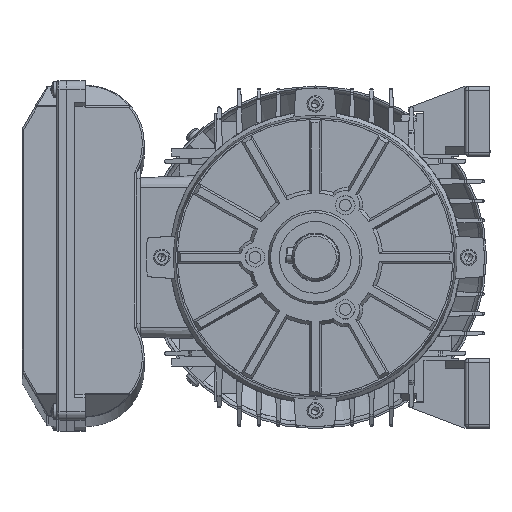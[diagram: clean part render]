
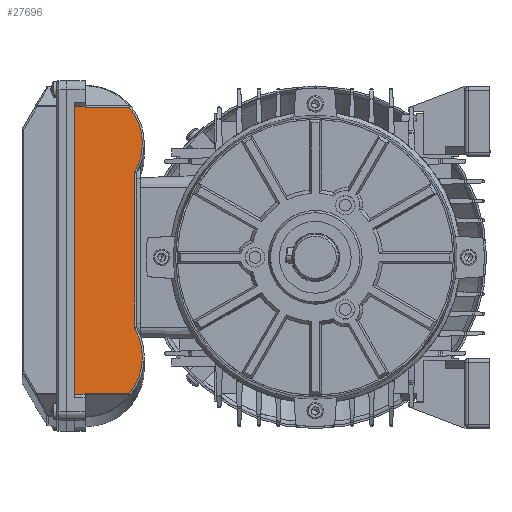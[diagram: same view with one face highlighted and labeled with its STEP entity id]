
A CAD part, left-side view. The second image highlights one B-rep face of the part: STEP entity #27696.
In plain terms, the highlighted planar face has unit normal (-0.999, 0, 0.043) as drawn and (0, 0, 1) by its records, which use the part's own axes.
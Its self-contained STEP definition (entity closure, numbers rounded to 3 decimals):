
#880 = ORIENTED_EDGE ( 'NONE', *, *, #39147, .T. ) ;
#1239 = EDGE_CURVE ( 'NONE', #28847, #29519, #54235, .T. ) ;
#2260 = VECTOR ( 'NONE', #73281, 1000. ) ;
#3214 = EDGE_CURVE ( 'NONE', #46140, #18748, #95264, .T. ) ;
#6513 = CARTESIAN_POINT ( 'NONE',  ( 162.296, -7.5, 140. ) ) ;
#8426 = EDGE_CURVE ( 'NONE', #11874, #73346, #112369, .T. ) ;
#8564 = CARTESIAN_POINT ( 'NONE',  ( 162.296, 6.263, 140. ) ) ;
#9766 = VECTOR ( 'NONE', #54832, 1000. ) ;
#11874 = VERTEX_POINT ( 'NONE', #18665 ) ;
#12584 = DIRECTION ( 'NONE',  ( 0., -1., 0. ) ) ;
#15116 = CARTESIAN_POINT ( 'NONE',  ( 33.5, 29., 140. ) ) ;
#15262 = DIRECTION ( 'NONE',  ( 0., 1., 0. ) ) ;
#17146 = ORIENTED_EDGE ( 'NONE', *, *, #8426, .T. ) ;
#18354 = DIRECTION ( 'NONE',  ( 1., 0., 0. ) ) ;
#18665 = CARTESIAN_POINT ( 'NONE',  ( 162.296, 29., 140. ) ) ;
#18738 = CARTESIAN_POINT ( 'NONE',  ( 128.4, 3.5, 140. ) ) ;
#18748 = VERTEX_POINT ( 'NONE', #89465 ) ;
#24871 = VECTOR ( 'NONE', #12584, 1000. ) ;
#26506 = CARTESIAN_POINT ( 'NONE',  ( 14.314, 29., 140. ) ) ;
#27112 = CIRCLE ( 'NONE', #94628, 29.5 ) ;
#27696 = ADVANCED_FACE ( 'NONE', ( #32480 ), #69103, .T. ) ;
#28847 = VERTEX_POINT ( 'NONE', #41783 ) ;
#29519 = VERTEX_POINT ( 'NONE', #43887 ) ;
#30053 = ORIENTED_EDGE ( 'NONE', *, *, #55461, .F. ) ;
#30786 = DIRECTION ( 'NONE',  ( 0., -1., 0. ) ) ;
#30860 = CARTESIAN_POINT ( 'NONE',  ( 3., -7.5, 140. ) ) ;
#32110 = LINE ( 'NONE', #74458, #2260 ) ;
#32430 = AXIS2_PLACEMENT_3D ( 'NONE', #30860, #103769, #68293 ) ;
#32480 = FACE_OUTER_BOUND ( 'NONE', #44904, .T. ) ;
#36422 = DIRECTION ( 'NONE',  ( 1., 0., 0. ) ) ;
#38517 = ORIENTED_EDGE ( 'NONE', *, *, #1239, .T. ) ;
#39147 = EDGE_CURVE ( 'NONE', #113042, #11874, #114586, .T. ) ;
#39180 = CARTESIAN_POINT ( 'NONE',  ( 14.704, -7.5, 140. ) ) ;
#41783 = CARTESIAN_POINT ( 'NONE',  ( 48.332, 3.5, 140. ) ) ;
#43887 = CARTESIAN_POINT ( 'NONE',  ( 128.668, 3.5, 140. ) ) ;
#44904 = EDGE_LOOP ( 'NONE', ( #101533, #880, #17146, #107104, #30053, #92149, #45995, #111773, #104470, #38517 ) ) ;
#45995 = ORIENTED_EDGE ( 'NONE', *, *, #105120, .T. ) ;
#46140 = VERTEX_POINT ( 'NONE', #61229 ) ;
#46893 = CARTESIAN_POINT ( 'NONE',  ( 162.686, 34.5, 140. ) ) ;
#49134 = LINE ( 'NONE', #49654, #24871 ) ;
#49554 = VERTEX_POINT ( 'NONE', #46893 ) ;
#49654 = CARTESIAN_POINT ( 'NONE',  ( 14.314, 34.5, 140. ) ) ;
#49686 = EDGE_CURVE ( 'NONE', #58027, #73670, #49134, .T. ) ;
#50714 = LINE ( 'NONE', #81072, #72028 ) ;
#54235 = LINE ( 'NONE', #18738, #92583 ) ;
#54832 = DIRECTION ( 'NONE',  ( 1., 0., 0. ) ) ;
#55461 = EDGE_CURVE ( 'NONE', #58027, #49554, #32110, .T. ) ;
#55585 = CARTESIAN_POINT ( 'NONE',  ( 162.686, 29., 140. ) ) ;
#58027 = VERTEX_POINT ( 'NONE', #92073 ) ;
#60132 = DIRECTION ( 'NONE',  ( 0., 0., 1. ) ) ;
#61229 = CARTESIAN_POINT ( 'NONE',  ( 14.704, 29., 140. ) ) ;
#68293 = DIRECTION ( 'NONE',  ( 1., 0., 0. ) ) ;
#69103 = PLANE ( 'NONE',  #32430 ) ;
#70997 = VECTOR ( 'NONE', #30786, 1000. ) ;
#72028 = VECTOR ( 'NONE', #99789, 1000. ) ;
#72644 = EDGE_CURVE ( 'NONE', #18748, #28847, #73624, .T. ) ;
#73236 = EDGE_CURVE ( 'NONE', #49554, #73346, #50714, .T. ) ;
#73281 = DIRECTION ( 'NONE',  ( 1., 0., 0. ) ) ;
#73346 = VERTEX_POINT ( 'NONE', #55585 ) ;
#73624 = CIRCLE ( 'NONE', #95114, 29.5 ) ;
#73670 = VERTEX_POINT ( 'NONE', #98495 ) ;
#74458 = CARTESIAN_POINT ( 'NONE',  ( 14.314, 34.5, 140. ) ) ;
#78044 = DIRECTION ( 'NONE',  ( 0., 0., 1. ) ) ;
#81072 = CARTESIAN_POINT ( 'NONE',  ( 162.686, 34.5, 140. ) ) ;
#87147 = CARTESIAN_POINT ( 'NONE',  ( 143.5, 29., 140. ) ) ;
#89465 = CARTESIAN_POINT ( 'NONE',  ( 14.704, 6.263, 140. ) ) ;
#92073 = CARTESIAN_POINT ( 'NONE',  ( 14.314, 34.5, 140. ) ) ;
#92149 = ORIENTED_EDGE ( 'NONE', *, *, #49686, .T. ) ;
#92583 = VECTOR ( 'NONE', #18354, 1000. ) ;
#94628 = AXIS2_PLACEMENT_3D ( 'NONE', #87147, #60132, #96363 ) ;
#95114 = AXIS2_PLACEMENT_3D ( 'NONE', #15116, #78044, #96758 ) ;
#95264 = LINE ( 'NONE', #39180, #70997 ) ;
#96363 = DIRECTION ( 'NONE',  ( 1., 0., 0. ) ) ;
#96758 = DIRECTION ( 'NONE',  ( 1., 0., 0. ) ) ;
#98254 = VECTOR ( 'NONE', #36422, 1000. ) ;
#98495 = CARTESIAN_POINT ( 'NONE',  ( 14.314, 29., 140. ) ) ;
#99777 = CARTESIAN_POINT ( 'NONE',  ( 14.314, 29., 140. ) ) ;
#99789 = DIRECTION ( 'NONE',  ( 0., -1., 0. ) ) ;
#101533 = ORIENTED_EDGE ( 'NONE', *, *, #104471, .T. ) ;
#103294 = VECTOR ( 'NONE', #15262, 1000. ) ;
#103769 = DIRECTION ( 'NONE',  ( 0., 0., 1. ) ) ;
#104470 = ORIENTED_EDGE ( 'NONE', *, *, #72644, .T. ) ;
#104471 = EDGE_CURVE ( 'NONE', #29519, #113042, #27112, .T. ) ;
#105120 = EDGE_CURVE ( 'NONE', #73670, #46140, #115221, .T. ) ;
#107104 = ORIENTED_EDGE ( 'NONE', *, *, #73236, .F. ) ;
#111773 = ORIENTED_EDGE ( 'NONE', *, *, #3214, .T. ) ;
#112369 = LINE ( 'NONE', #26506, #9766 ) ;
#113042 = VERTEX_POINT ( 'NONE', #8564 ) ;
#114586 = LINE ( 'NONE', #6513, #103294 ) ;
#115221 = LINE ( 'NONE', #99777, #98254 ) ;
